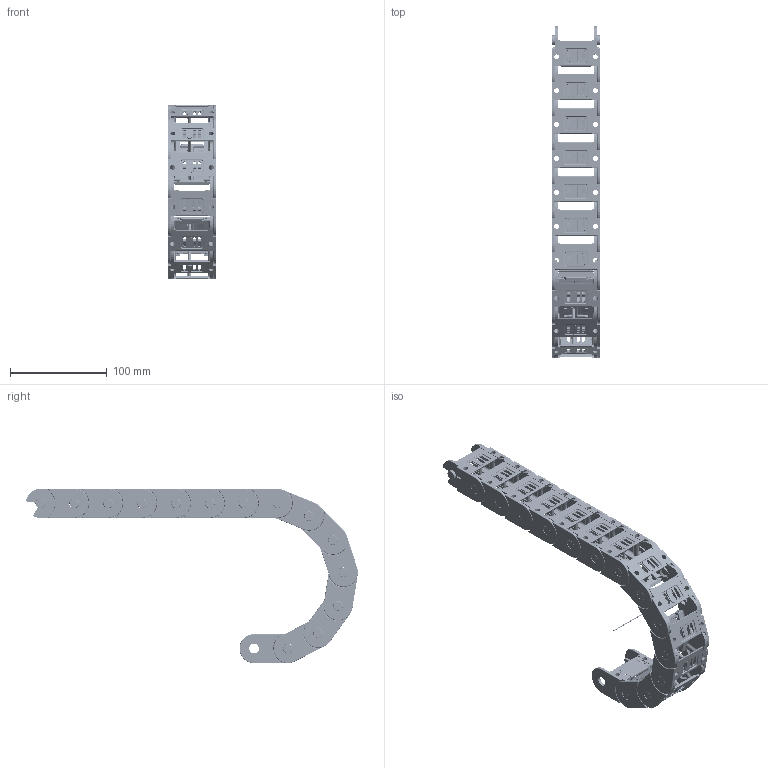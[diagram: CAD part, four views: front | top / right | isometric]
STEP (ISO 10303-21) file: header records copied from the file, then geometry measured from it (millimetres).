
FILE_DESCRIPTION((''),'2;1');
FILE_NAME('\\192.168.0.88\samba\technik\3D\STEP\KOLIBRI\KOLIBRI_30_050_0\KOLIBRI 30_050_0_R75.stp','2013-01-28T11:09:28',('Uebbing'),(''),'Autodesk Inventor 10','Autodesk Inventor 10','');
FILE_SCHEMA(('AUTOMOTIVE_DESIGN { 1 0 10303 214 1 1 1 1 }'));
Length unit declared in the file: millimetre
Products named in the file (6): KOLIBRI 30_050_0_PARAMETRISCH; Achse; Kol_30_050_0_Glied; Kol 30_050_0 Lasche; Kol 30_050_0 Klappsteg; PZ 30 Stecksteg
Assembly tree (18 placements, depth 3):
  KOLIBRI 30_050_0_PARAMETRISCH
    Achse
    Kol_30_050_0_Glied  x14
      Kol 30_050_0 Lasche
      Kol 30_050_0 Klappsteg
      PZ 30 Stecksteg
Bounding box: 50 x 342.64 x 180 mm (x, y, z)
Volume: 218111 mm3; surface area: 211385.5 mm2
Topology: 43 solids, 43 shells, 13401 faces, 36614 edges, 23985 vertices
Faces by surface type: plane 6890, bspline 2898, cylinder 2787, torus 630, cone 112, sphere 84
Full cylindrical faces by diameter (mm): 1 x1, 1.166 x14, 2.048 x14, 2.8 x112, 5.1 x28, 10 x28, 10.1 x28
Entity records: 33112 total; most frequent: CARTESIAN_POINT 9696, ORIENTED_EDGE 5150, DIRECTION 4260, EDGE_CURVE 2575, VERTEX_POINT 1701, VECTOR 1612, LINE 1612, AXIS2_PLACEMENT_3D 1324
